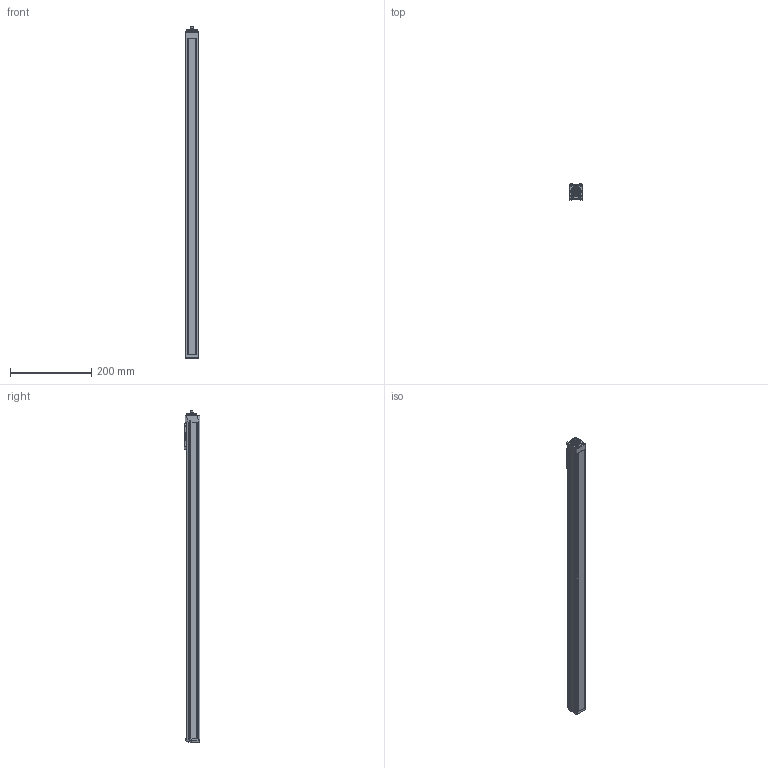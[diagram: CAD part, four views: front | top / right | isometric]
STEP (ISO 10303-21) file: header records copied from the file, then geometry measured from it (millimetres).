
FILE_DESCRIPTION(/* description */ ('STEP AP214'),/* implementation_level */ '2;1');
FILE_NAME(/* name */ 'MGBS 32 0802 700(0)',/* time_stamp */ '2023-04-12T10:47:15+02:00',/* author */ ('License CC BY-ND 4.0'),/* organization */ ('CADENAS'),/* preprocessor_version */ 'ST-DEVELOPER v19.3',/* originating_system */ 'PARTsolutions',/* authorisation */ ' ');
FILE_SCHEMA (('AUTOMOTIVE_DESIGN {1 0 10303 214 3 1 1}'));
Length unit declared in the file: millimetre
Products named in the file (6): MGBS 32 0802 700(0); MGBS 32 700_protection_strip; MGBS 32_carriage; MGBS 32_end_block; MGBS 32 700_profile; MGBS 32_drive_block
Assembly tree (5 placements, depth 2):
  MGBS 32 0802 700(0)
    MGBS 32 700_protection_strip
    MGBS 32_carriage
    MGBS 32_end_block
    MGBS 32 700_profile
    MGBS 32_drive_block
Bounding box: 32 x 38.5 x 819.5 mm (x, y, z)
Volume: 760718.7 mm3; surface area: 185570 mm2
Topology: 5 solids, 5 shells, 638 faces, 1686 edges, 1092 vertices
Faces by surface type: plane 301, cylinder 160, cone 94, bspline 56, torus 25, sphere 2
Full cylindrical faces by diameter (mm): 0.3 x1, 1.567 x4, 1.755 x4, 1.8 x2, 2 x2, 2.3 x4, 2.459 x8, 2.46 x4, 2.5 x11, 3 x1, 3.8 x4, 4.5 x6, 5 x5, 7.5 x1, 8 x1, 10 x1, 13.84 x1, 14.2 x1, 17.8 x1, 18.16 x1, 19.5 x1, 25 x2, 25.7 x1
Entity records: 23436 total; most frequent: CARTESIAN_POINT 4050, DIRECTION 3216, ORIENTED_EDGE 2990, EDGE_CURVE 1495, AXIS2_PLACEMENT_3D 1173, VERTEX_POINT 1077, LINE 870, VECTOR 870
